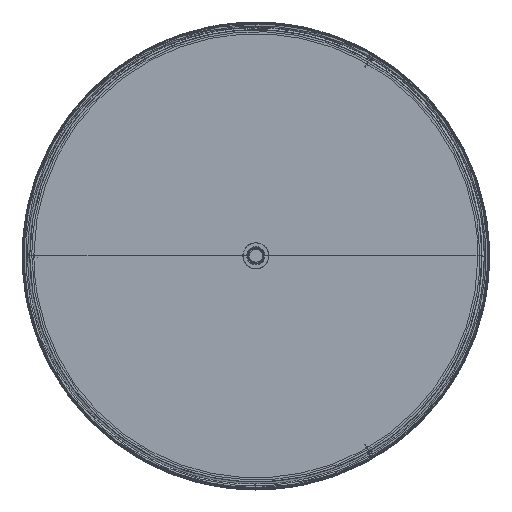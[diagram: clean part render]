
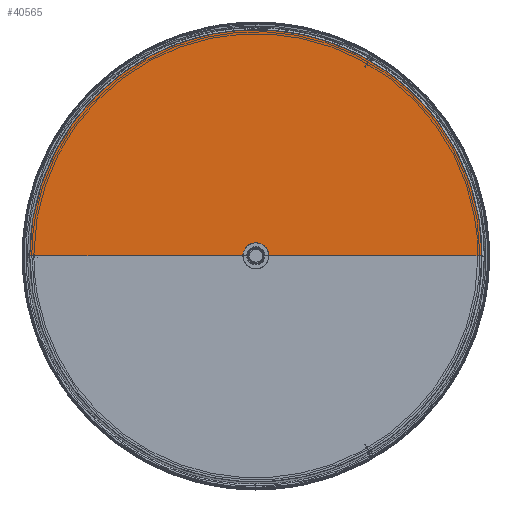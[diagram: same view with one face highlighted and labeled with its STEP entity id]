
A CAD part, top view. The second image highlights one B-rep face of the part: STEP entity #40565.
In plain terms, the highlighted free-form (B-spline) face has degree [1, 2] with [2, 5] control points.
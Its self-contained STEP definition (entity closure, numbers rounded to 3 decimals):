
#214 = ORIENTED_EDGE ( 'NONE', *, *, #74690, .F. ) ;
#5646 = CARTESIAN_POINT ( 'NONE',  ( -9., 9., 1433.2 ) ) ;
#5920 = VERTEX_POINT ( 'NONE', #54481 ) ;
#6383 = CARTESIAN_POINT ( 'NONE',  ( -9., 9., 1433.2 ) ) ;
#7301 = EDGE_CURVE ( 'NONE', #72217, #26686, #45814, .T. ) ;
#8351 =( BOUNDED_SURFACE ( )  B_SPLINE_SURFACE ( 1, 2, ( 
 ( #83538, #14015, #75905, #6383, #91628 ),
 ( #85013, #62224, #56105, #54106, #71283 ) ),
 .UNSPECIFIED., .F., .F., .T. ) 
 B_SPLINE_SURFACE_WITH_KNOTS ( ( 2, 2 ),
 ( 3, 2, 3 ),
 ( 214., 427.5 ),
 ( 699.004, 1048.507, 1398.009 ),
 .UNSPECIFIED. ) 
 GEOMETRIC_REPRESENTATION_ITEM ( )  RATIONAL_B_SPLINE_SURFACE ( (
 ( 1., 0.707, 1., 0.707, 1.),
 ( 1., 0.707, 1., 0.707, 1.) ) ) 
 REPRESENTATION_ITEM ( '' )  SURFACE ( )  );
#11148 = CARTESIAN_POINT ( 'NONE',  ( 222.5, 222.5, 1433.2 ) ) ;
#14015 = CARTESIAN_POINT ( 'NONE',  ( 9., 9., 1433.2 ) ) ;
#17609 = EDGE_CURVE ( 'NONE', #96373, #5920, #98148, .T. ) ;
#18165 = ORIENTED_EDGE ( 'NONE', *, *, #7301, .T. ) ;
#20317 = CARTESIAN_POINT ( 'NONE',  ( 222.5, 0., 1433.2 ) ) ;
#21760 = EDGE_LOOP ( 'NONE', ( #42814, #18165, #214, #22167 ) ) ;
#22167 = ORIENTED_EDGE ( 'NONE', *, *, #17609, .T. ) ;
#26686 = VERTEX_POINT ( 'NONE', #47634 ) ;
#27232 = CARTESIAN_POINT ( 'NONE',  ( 9., 0., 1433.2 ) ) ;
#29952 = CARTESIAN_POINT ( 'NONE',  ( -9., 0., 1433.2 ) ) ;
#36655 = CARTESIAN_POINT ( 'NONE',  ( 0., 9., 1433.2 ) ) ;
#40565 = ADVANCED_FACE ( 'NONE', ( #91142 ), #8351, .T. ) ;
#42136 = CARTESIAN_POINT ( 'NONE',  ( -222.5, 0., 1433.2 ) ) ;
#42814 = ORIENTED_EDGE ( 'NONE', *, *, #89448, .F. ) ;
#45814 =( BOUNDED_CURVE ( )  B_SPLINE_CURVE ( 2, ( #20317, #11148, #64995, #51276, #42136 ),
 .UNSPECIFIED., .F., .F. ) 
 B_SPLINE_CURVE_WITH_KNOTS ( ( 3, 2, 3 ),
 ( 699.004, 1048.507, 1398.009 ),
 .UNSPECIFIED. ) 
 CURVE ( )  GEOMETRIC_REPRESENTATION_ITEM ( )  RATIONAL_B_SPLINE_CURVE ( ( 1., 0.707, 1., 0.707, 1. ) ) 
 REPRESENTATION_ITEM ( '' )  );
#46065 = CARTESIAN_POINT ( 'NONE',  ( -9., 0., 1433.2 ) ) ;
#47634 = CARTESIAN_POINT ( 'NONE',  ( -222.5, 0., 1433.2 ) ) ;
#51276 = CARTESIAN_POINT ( 'NONE',  ( -222.5, 222.5, 1433.2 ) ) ;
#54106 = CARTESIAN_POINT ( 'NONE',  ( -222.5, 222.5, 1433.2 ) ) ;
#54481 = CARTESIAN_POINT ( 'NONE',  ( 9., 0., 1433.2 ) ) ;
#56001 = CARTESIAN_POINT ( 'NONE',  ( 222.5, 0., 1433.2 ) ) ;
#56105 = CARTESIAN_POINT ( 'NONE',  ( 0., 222.5, 1433.2 ) ) ;
#57219 = CARTESIAN_POINT ( 'NONE',  ( 222.5, 0., 1433.2 ) ) ;
#60482 = CARTESIAN_POINT ( 'NONE',  ( 9., 0., 1433.2 ) ) ;
#62224 = CARTESIAN_POINT ( 'NONE',  ( 222.5, 222.5, 1433.2 ) ) ;
#64995 = CARTESIAN_POINT ( 'NONE',  ( 0., 222.5, 1433.2 ) ) ;
#67567 = CARTESIAN_POINT ( 'NONE',  ( 9., 9., 1433.2 ) ) ;
#71283 = CARTESIAN_POINT ( 'NONE',  ( -222.5, 0., 1433.2 ) ) ;
#72217 = VERTEX_POINT ( 'NONE', #56001 ) ;
#74690 = EDGE_CURVE ( 'NONE', #96373, #26686, #88836, .T. ) ;
#75156 = CARTESIAN_POINT ( 'NONE',  ( -9., 0., 1433.2 ) ) ;
#75905 = CARTESIAN_POINT ( 'NONE',  ( 0., 9., 1433.2 ) ) ;
#83538 = CARTESIAN_POINT ( 'NONE',  ( 9., 0., 1433.2 ) ) ;
#84372 = B_SPLINE_CURVE_WITH_KNOTS ( 'NONE', 1,
 ( #57219, #27232 ),
 .UNSPECIFIED., .F., .F.,
 ( 2, 2 ),
 ( -427.5, -214. ),
 .UNSPECIFIED. ) ;
#85013 = CARTESIAN_POINT ( 'NONE',  ( 222.5, 0., 1433.2 ) ) ;
#85601 = CARTESIAN_POINT ( 'NONE',  ( -222.5, 0., 1433.2 ) ) ;
#88836 = B_SPLINE_CURVE_WITH_KNOTS ( 'NONE', 1,
 ( #46065, #85601 ),
 .UNSPECIFIED., .F., .F.,
 ( 2, 2 ),
 ( 214., 427.5 ),
 .UNSPECIFIED. ) ;
#89448 = EDGE_CURVE ( 'NONE', #72217, #5920, #84372, .T. ) ;
#91142 = FACE_OUTER_BOUND ( 'NONE', #21760, .T. ) ;
#91628 = CARTESIAN_POINT ( 'NONE',  ( -9., 0., 1433.2 ) ) ;
#96373 = VERTEX_POINT ( 'NONE', #29952 ) ;
#98148 =( BOUNDED_CURVE ( )  B_SPLINE_CURVE ( 2, ( #75156, #5646, #36655, #67567, #60482 ),
 .UNSPECIFIED., .F., .T. ) 
 B_SPLINE_CURVE_WITH_KNOTS ( ( 3, 2, 3 ),
 ( -36., -18., 0. ),
 .UNSPECIFIED. ) 
 CURVE ( )  GEOMETRIC_REPRESENTATION_ITEM ( )  RATIONAL_B_SPLINE_CURVE ( ( 1., 0.707, 1., 0.707, 1. ) ) 
 REPRESENTATION_ITEM ( '' )  );
